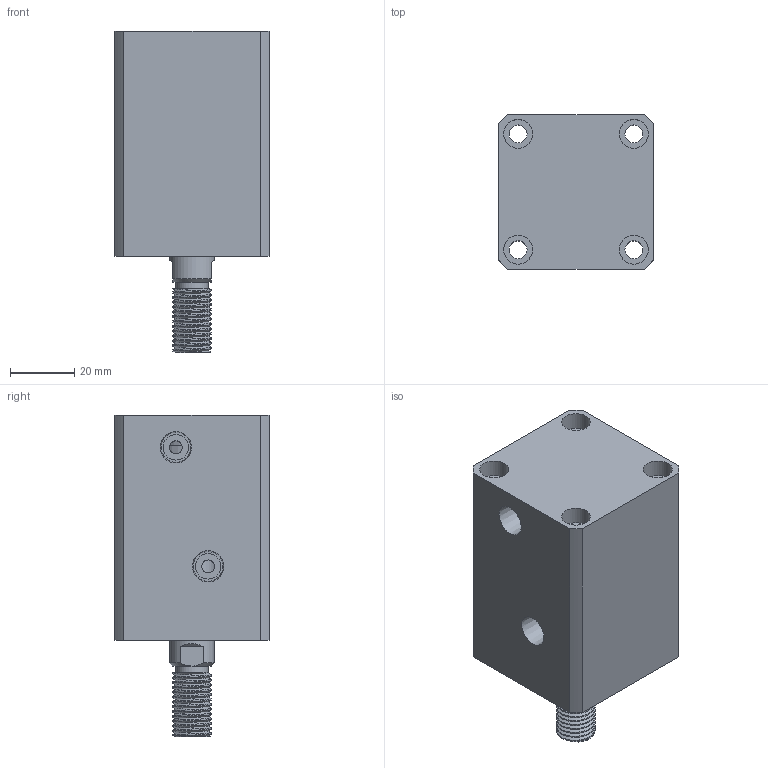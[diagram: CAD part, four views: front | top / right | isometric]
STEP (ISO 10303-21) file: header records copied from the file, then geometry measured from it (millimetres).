
FILE_DESCRIPTION(/* description */ (''),/* implementation_level */ '2;1');
FILE_NAME(/* name */ 'CHTB-sd25x25w.stp',/* time_stamp */ '2022-04-29T14:58:43+08:00',/* author */ (''),/* organization */ (''),/* preprocessor_version */ 'ST-DEVELOPER v16.7',/* originating_system */ 'SIEMENS PLM Software NX 12.0',/* authorisation */ '');
FILE_SCHEMA (('AUTOMOTIVE_DESIGN { 1 0 10303 214 3 1 1 1 }'));
Length unit declared in the file: millimetre
Products named in the file (1): CHTB-sd25x25w
Bounding box: 48 x 48 x 100 mm (x, y, z)
Volume: 144324.4 mm3; surface area: 39823.7 mm2
Topology: 3 solids, 3 shells, 438 faces, 1210 edges, 824 vertices
Faces by surface type: plane 283, extrusion 96, cylinder 41, bspline 10, cone 7, torus 1
Full cylindrical faces by diameter (mm): 3 x2, 4 x2, 5.6 x4, 7.9 x2, 9 x8, 10 x1, 14 x2, 21 x2, 23 x2, 25 x5, 31 x1
Entity records: 21769 total; most frequent: CARTESIAN_POINT 8836, ORIENTED_EDGE 2322, DIRECTION 1729, EDGE_CURVE 1161, VECTOR 885, VERTEX_POINT 813, LINE 789, EDGE_LOOP 534
